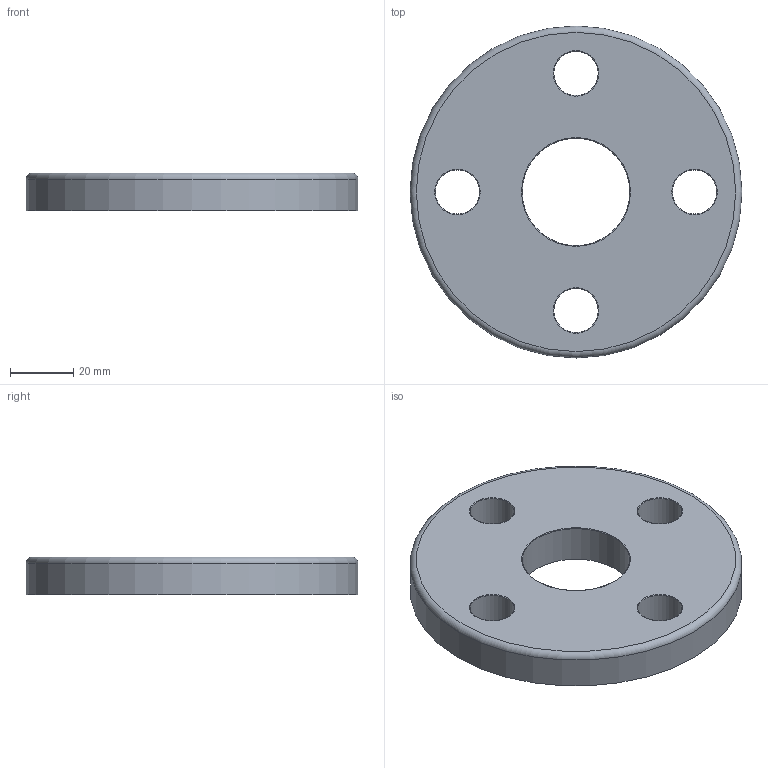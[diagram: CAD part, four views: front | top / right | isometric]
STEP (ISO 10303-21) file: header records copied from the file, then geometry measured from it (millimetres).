
FILE_DESCRIPTION(/* description */ ('PVC-U flangia libera BS 4504 DIN 8063 / PVC-U backing ring drilled to BS 4504 DIN 8063'),/* implementation_level */ '2;1');
FILE_NAME(/* name */ 'C:\Users\POLYPIPE\Desktop\DATASET INVENTOR\LIBRERIA EFFAST\RACCORDI 3DxWEB\RDR\3D_RDRFLD\3D_RDRFLD0250.stp',/* time_stamp */ '2018-01-19T14:21:40+01:00',/* author */ ('POLYPIPE'),/* organization */ ('Polypipe Italia s.r.l.'),/* preprocessor_version */ 'ST-DEVELOPER v16.1',/* originating_system */ 'Autodesk Inventor 2016',/* authorisation */ '');
FILE_SCHEMA (('CONFIG_CONTROL_DESIGN'));
Length unit declared in the file: millimetre
Products named in the file (1): 3D_RDRFLD
Bounding box: 105 x 105 x 12 mm (x, y, z)
Volume: 85340.9 mm3; surface area: 21312.9 mm2
Topology: 1 solids, 1 shells, 14 faces, 30 edges, 18 vertices
Faces by surface type: torus 6, cylinder 6, plane 2
Full cylindrical faces by diameter (mm): 14 x4, 34 x1, 105 x1
Entity records: 368 total; most frequent: DIRECTION 66, CARTESIAN_POINT 51, EDGE_LOOP 36, ORIENTED_EDGE 36, AXIS2_PLACEMENT_3D 33, FACE_BOUND 22, CIRCLE 18, VERTEX_POINT 18
